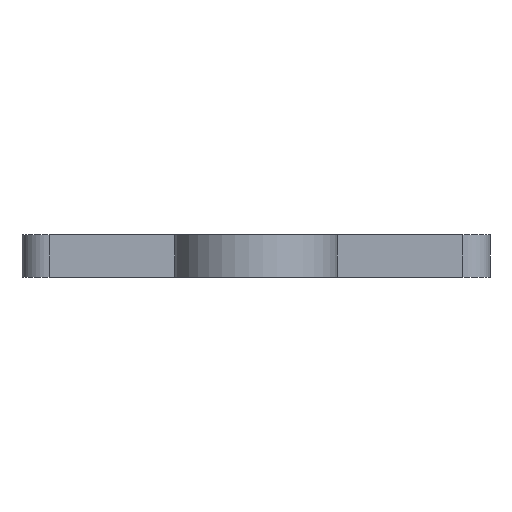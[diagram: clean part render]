
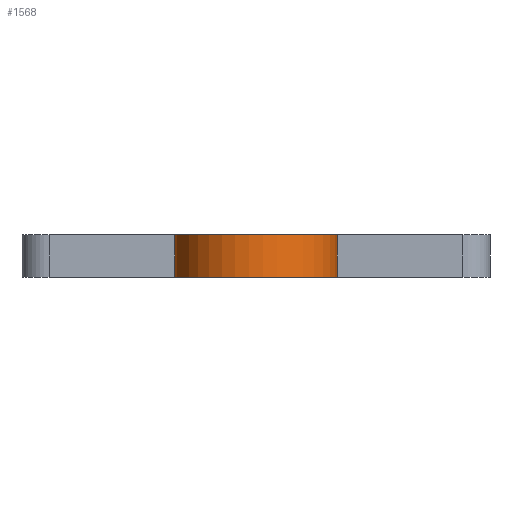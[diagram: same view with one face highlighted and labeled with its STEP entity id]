
A CAD part, left-side view. The second image highlights one B-rep face of the part: STEP entity #1568.
In plain terms, the highlighted cylindrical face has radius 2.4 mm (diameter 4.8 mm), a partial arc.
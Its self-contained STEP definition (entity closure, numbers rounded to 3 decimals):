
#44 = PLANE('',#45);
#45 = AXIS2_PLACEMENT_3D('',#46,#47,#48);
#46 = CARTESIAN_POINT('',(0.,-13.238,-6.35));
#47 = DIRECTION('',(0.,0.,1.));
#48 = DIRECTION('',(1.,0.,-0.));
#100 = PLANE('',#101);
#101 = AXIS2_PLACEMENT_3D('',#102,#103,#104);
#102 = CARTESIAN_POINT('',(0.,-13.238,-5.1));
#103 = DIRECTION('',(0.,0.,1.));
#104 = DIRECTION('',(1.,0.,-0.));
#126 = PLANE('',#127);
#127 = AXIS2_PLACEMENT_3D('',#128,#129,#130);
#128 = CARTESIAN_POINT('',(-11.5,-14.238,-6.35));
#129 = DIRECTION('',(-0.,1.,0.));
#130 = DIRECTION('',(0.,0.,1.));
#483 = VERTEX_POINT('',#484);
#484 = CARTESIAN_POINT('',(-9.318,-12.238,-6.35));
#498 = PLANE('',#499);
#499 = AXIS2_PLACEMENT_3D('',#500,#501,#502);
#500 = CARTESIAN_POINT('',(-11.5,-12.238,-6.35));
#501 = DIRECTION('',(-0.,1.,0.));
#502 = DIRECTION('',(0.,0.,1.));
#510 = EDGE_CURVE('',#483,#511,#513,.T.);
#511 = VERTEX_POINT('',#512);
#512 = CARTESIAN_POINT('',(-9.318,-14.238,-6.35));
#513 = SURFACE_CURVE('',#514,(#519,#526),.PCURVE_S1.);
#514 = CIRCLE('',#515,2.4);
#515 = AXIS2_PLACEMENT_3D('',#516,#517,#518);
#516 = CARTESIAN_POINT('',(-11.5,-13.238,-6.35));
#517 = DIRECTION('',(0.,0.,1.));
#518 = DIRECTION('',(1.,0.,-0.));
#519 = PCURVE('',#44,#520);
#520 = DEFINITIONAL_REPRESENTATION('',(#521),#525);
#521 = CIRCLE('',#522,2.4);
#522 = AXIS2_PLACEMENT_2D('',#523,#524);
#523 = CARTESIAN_POINT('',(-11.5,0.));
#524 = DIRECTION('',(1.,0.));
#525 = ( GEOMETRIC_REPRESENTATION_CONTEXT(2) 
PARAMETRIC_REPRESENTATION_CONTEXT() REPRESENTATION_CONTEXT('2D SPACE',''
  ) );
#526 = PCURVE('',#527,#532);
#527 = CYLINDRICAL_SURFACE('',#528,2.4);
#528 = AXIS2_PLACEMENT_3D('',#529,#530,#531);
#529 = CARTESIAN_POINT('',(-11.5,-13.238,-6.35));
#530 = DIRECTION('',(0.,0.,1.));
#531 = DIRECTION('',(1.,0.,-0.));
#532 = DEFINITIONAL_REPRESENTATION('',(#533),#537);
#533 = LINE('',#534,#535);
#534 = CARTESIAN_POINT('',(0.,0.));
#535 = VECTOR('',#536,1.);
#536 = DIRECTION('',(1.,0.));
#537 = ( GEOMETRIC_REPRESENTATION_CONTEXT(2) 
PARAMETRIC_REPRESENTATION_CONTEXT() REPRESENTATION_CONTEXT('2D SPACE',''
  ) );
#872 = EDGE_CURVE('',#511,#873,#875,.T.);
#873 = VERTEX_POINT('',#874);
#874 = CARTESIAN_POINT('',(-9.318,-14.238,-5.1));
#875 = SURFACE_CURVE('',#876,(#880,#887),.PCURVE_S1.);
#876 = LINE('',#877,#878);
#877 = CARTESIAN_POINT('',(-9.318,-14.238,-6.35));
#878 = VECTOR('',#879,1.);
#879 = DIRECTION('',(0.,0.,1.));
#880 = PCURVE('',#126,#881);
#881 = DEFINITIONAL_REPRESENTATION('',(#882),#886);
#882 = LINE('',#883,#884);
#883 = CARTESIAN_POINT('',(0.,2.182));
#884 = VECTOR('',#885,1.);
#885 = DIRECTION('',(1.,0.));
#886 = ( GEOMETRIC_REPRESENTATION_CONTEXT(2) 
PARAMETRIC_REPRESENTATION_CONTEXT() REPRESENTATION_CONTEXT('2D SPACE',''
  ) );
#887 = PCURVE('',#527,#888);
#888 = DEFINITIONAL_REPRESENTATION('',(#889),#892);
#889 = B_SPLINE_CURVE_WITH_KNOTS('',1,(#890,#891),.UNSPECIFIED.,.F.,.F.,
  (2,2),(0.,1.25),.PIECEWISE_BEZIER_KNOTS.);
#890 = CARTESIAN_POINT('',(5.853,0.));
#891 = CARTESIAN_POINT('',(5.853,1.25));
#892 = ( GEOMETRIC_REPRESENTATION_CONTEXT(2) 
PARAMETRIC_REPRESENTATION_CONTEXT() REPRESENTATION_CONTEXT('2D SPACE',''
  ) );
#1202 = VERTEX_POINT('',#1203);
#1203 = CARTESIAN_POINT('',(-9.318,-12.238,-5.1));
#1224 = EDGE_CURVE('',#1202,#873,#1225,.T.);
#1225 = SURFACE_CURVE('',#1226,(#1231,#1238),.PCURVE_S1.);
#1226 = CIRCLE('',#1227,2.4);
#1227 = AXIS2_PLACEMENT_3D('',#1228,#1229,#1230);
#1228 = CARTESIAN_POINT('',(-11.5,-13.238,-5.1));
#1229 = DIRECTION('',(0.,0.,1.));
#1230 = DIRECTION('',(1.,0.,-0.));
#1231 = PCURVE('',#100,#1232);
#1232 = DEFINITIONAL_REPRESENTATION('',(#1233),#1237);
#1233 = CIRCLE('',#1234,2.4);
#1234 = AXIS2_PLACEMENT_2D('',#1235,#1236);
#1235 = CARTESIAN_POINT('',(-11.5,0.));
#1236 = DIRECTION('',(1.,0.));
#1237 = ( GEOMETRIC_REPRESENTATION_CONTEXT(2) 
PARAMETRIC_REPRESENTATION_CONTEXT() REPRESENTATION_CONTEXT('2D SPACE',''
  ) );
#1238 = PCURVE('',#527,#1239);
#1239 = DEFINITIONAL_REPRESENTATION('',(#1240),#1244);
#1240 = LINE('',#1241,#1242);
#1241 = CARTESIAN_POINT('',(0.,1.25));
#1242 = VECTOR('',#1243,1.);
#1243 = DIRECTION('',(1.,0.));
#1244 = ( GEOMETRIC_REPRESENTATION_CONTEXT(2) 
PARAMETRIC_REPRESENTATION_CONTEXT() REPRESENTATION_CONTEXT('2D SPACE',''
  ) );
#1568 = ADVANCED_FACE('',(#1569),#527,.T.);
#1569 = FACE_BOUND('',#1570,.T.);
#1570 = EDGE_LOOP('',(#1571,#1572,#1592,#1593));
#1571 = ORIENTED_EDGE('',*,*,#1224,.F.);
#1572 = ORIENTED_EDGE('',*,*,#1573,.F.);
#1573 = EDGE_CURVE('',#483,#1202,#1574,.T.);
#1574 = SURFACE_CURVE('',#1575,(#1579,#1585),.PCURVE_S1.);
#1575 = LINE('',#1576,#1577);
#1576 = CARTESIAN_POINT('',(-9.318,-12.238,-6.35));
#1577 = VECTOR('',#1578,1.);
#1578 = DIRECTION('',(0.,0.,1.));
#1579 = PCURVE('',#527,#1580);
#1580 = DEFINITIONAL_REPRESENTATION('',(#1581),#1584);
#1581 = B_SPLINE_CURVE_WITH_KNOTS('',1,(#1582,#1583),.UNSPECIFIED.,.F.,
  .F.,(2,2),(0.,1.25),.PIECEWISE_BEZIER_KNOTS.);
#1582 = CARTESIAN_POINT('',(0.43,0.));
#1583 = CARTESIAN_POINT('',(0.43,1.25));
#1584 = ( GEOMETRIC_REPRESENTATION_CONTEXT(2) 
PARAMETRIC_REPRESENTATION_CONTEXT() REPRESENTATION_CONTEXT('2D SPACE',''
  ) );
#1585 = PCURVE('',#498,#1586);
#1586 = DEFINITIONAL_REPRESENTATION('',(#1587),#1591);
#1587 = LINE('',#1588,#1589);
#1588 = CARTESIAN_POINT('',(0.,2.182));
#1589 = VECTOR('',#1590,1.);
#1590 = DIRECTION('',(1.,0.));
#1591 = ( GEOMETRIC_REPRESENTATION_CONTEXT(2) 
PARAMETRIC_REPRESENTATION_CONTEXT() REPRESENTATION_CONTEXT('2D SPACE',''
  ) );
#1592 = ORIENTED_EDGE('',*,*,#510,.T.);
#1593 = ORIENTED_EDGE('',*,*,#872,.T.);
